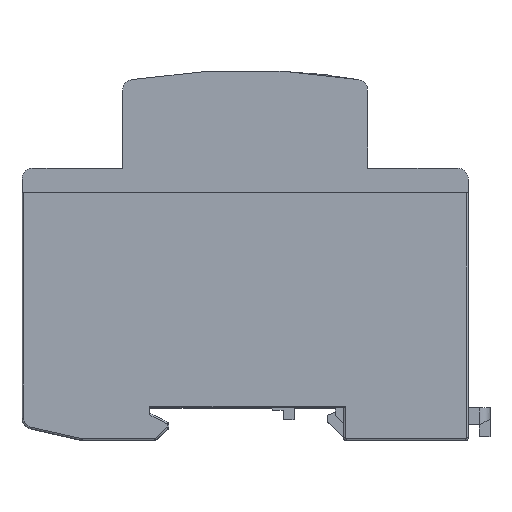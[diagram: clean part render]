
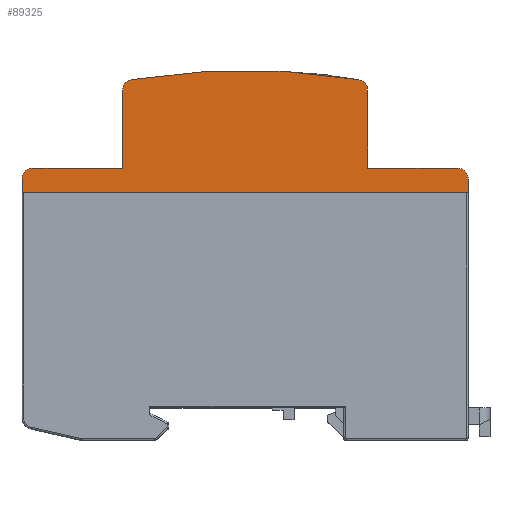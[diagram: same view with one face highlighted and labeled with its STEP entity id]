
A CAD part, top view. The second image highlights one B-rep face of the part: STEP entity #89325.
In plain terms, the highlighted planar face has unit normal (0, 0, 1).
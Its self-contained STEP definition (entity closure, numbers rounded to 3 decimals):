
#1273 = EDGE_CURVE ( 'NONE', #40265, #8136, #71218, .T. ) ;
#2281 = DIRECTION ( 'NONE',  ( 0., 0., -1. ) ) ;
#2338 = LINE ( 'NONE', #38130, #20530 ) ;
#3314 = LINE ( 'NONE', #61264, #30517 ) ;
#6109 = DIRECTION ( 'NONE',  ( 1., 0., 0. ) ) ;
#6634 = FACE_OUTER_BOUND ( 'NONE', #82988, .T. ) ;
#7112 = DIRECTION ( 'NONE',  ( 0., 0., 1. ) ) ;
#8136 = VERTEX_POINT ( 'NONE', #87949 ) ;
#9161 = CIRCLE ( 'NONE', #91932, 2. ) ;
#11566 = EDGE_CURVE ( 'NONE', #46644, #84211, #76021, .T. ) ;
#11831 = DIRECTION ( 'NONE',  ( 0., -1., 0. ) ) ;
#11911 = VERTEX_POINT ( 'NONE', #49611 ) ;
#12720 = EDGE_CURVE ( 'NONE', #74410, #85646, #2338, .T. ) ;
#13127 = DIRECTION ( 'NONE',  ( 0., 0., -1. ) ) ;
#15704 = DIRECTION ( 'NONE',  ( 0., 1., 0. ) ) ;
#16481 = EDGE_CURVE ( 'NONE', #36434, #77162, #92887, .T. ) ;
#17627 = ORIENTED_EDGE ( 'NONE', *, *, #24798, .F. ) ;
#18012 = DIRECTION ( 'NONE',  ( 1., 0., 0. ) ) ;
#18915 = ORIENTED_EDGE ( 'NONE', *, *, #16481, .F. ) ;
#19056 = ORIENTED_EDGE ( 'NONE', *, *, #41431, .F. ) ;
#20530 = VECTOR ( 'NONE', #66896, 1000. ) ;
#21721 = DIRECTION ( 'NONE',  ( 1., 0., 0. ) ) ;
#24138 = ORIENTED_EDGE ( 'NONE', *, *, #70222, .F. ) ;
#24798 = EDGE_CURVE ( 'NONE', #74410, #88228, #50112, .T. ) ;
#26601 = DIRECTION ( 'NONE',  ( 0., 1., 0. ) ) ;
#29663 = AXIS2_PLACEMENT_3D ( 'NONE', #57968, #7112, #21721 ) ;
#30499 = AXIS2_PLACEMENT_3D ( 'NONE', #69280, #76816, #6109 ) ;
#30517 = VECTOR ( 'NONE', #66945, 1000. ) ;
#31906 = CARTESIAN_POINT ( 'NONE',  ( 41., 0., 17.7 ) ) ;
#34021 = DIRECTION ( 'NONE',  ( 1., 0., 0. ) ) ;
#36434 = VERTEX_POINT ( 'NONE', #86016 ) ;
#36972 = CARTESIAN_POINT ( 'NONE',  ( 0., -105.062, 17.7 ) ) ;
#38071 = CARTESIAN_POINT ( 'NONE',  ( -20.5, 18.815, 17.7 ) ) ;
#38130 = CARTESIAN_POINT ( 'NONE',  ( 0., 0., 17.7 ) ) ;
#38832 = ORIENTED_EDGE ( 'NONE', *, *, #47960, .F. ) ;
#38995 = CARTESIAN_POINT ( 'NONE',  ( -39., 4.5, 17.7 ) ) ;
#39581 = CARTESIAN_POINT ( 'NONE',  ( 39., 2.5, 17.7 ) ) ;
#40265 = VERTEX_POINT ( 'NONE', #38995 ) ;
#40942 = CARTESIAN_POINT ( 'NONE',  ( -39., 2.5, 17.7 ) ) ;
#41431 = EDGE_CURVE ( 'NONE', #84211, #36434, #89249, .T. ) ;
#41882 = CARTESIAN_POINT ( 'NONE',  ( -41., 0., 17.7 ) ) ;
#43902 = ORIENTED_EDGE ( 'NONE', *, *, #1273, .F. ) ;
#46216 = DIRECTION ( 'NONE',  ( 0., 0., -1. ) ) ;
#46644 = VERTEX_POINT ( 'NONE', #66516 ) ;
#47960 = EDGE_CURVE ( 'NONE', #77162, #76314, #67489, .T. ) ;
#48470 = DIRECTION ( 'NONE',  ( 1., 0., 0. ) ) ;
#49611 = CARTESIAN_POINT ( 'NONE',  ( 41., 2.5, 17.7 ) ) ;
#50112 = LINE ( 'NONE', #80250, #65078 ) ;
#52682 = VECTOR ( 'NONE', #26601, 1000. ) ;
#54253 = CARTESIAN_POINT ( 'NONE',  ( 0., 4.5, 17.7 ) ) ;
#54609 = ORIENTED_EDGE ( 'NONE', *, *, #74598, .T. ) ;
#56042 = AXIS2_PLACEMENT_3D ( 'NONE', #38071, #2281, #63013 ) ;
#57968 = CARTESIAN_POINT ( 'NONE',  ( -42.64, -0.45, 17.7 ) ) ;
#59091 = DIRECTION ( 'NONE',  ( 1., 0., 0. ) ) ;
#61264 = CARTESIAN_POINT ( 'NONE',  ( -22.5, 11.26, 17.7 ) ) ;
#61441 = VERTEX_POINT ( 'NONE', #76595 ) ;
#62400 = CARTESIAN_POINT ( 'NONE',  ( 41., 1.25, 17.7 ) ) ;
#63013 = DIRECTION ( 'NONE',  ( -1., 0., 0. ) ) ;
#64419 = VECTOR ( 'NONE', #11831, 1000. ) ;
#65078 = VECTOR ( 'NONE', #15704, 1000. ) ;
#65105 = EDGE_CURVE ( 'NONE', #76314, #11911, #76870, .T. ) ;
#65502 = AXIS2_PLACEMENT_3D ( 'NONE', #36972, #80311, #59091 ) ;
#66516 = CARTESIAN_POINT ( 'NONE',  ( -20.827, 20.788, 17.7 ) ) ;
#66896 = DIRECTION ( 'NONE',  ( 1., 0., 0. ) ) ;
#66945 = DIRECTION ( 'NONE',  ( 0., 1., 0. ) ) ;
#67489 = LINE ( 'NONE', #54253, #83708 ) ;
#68769 = EDGE_CURVE ( 'NONE', #8136, #61441, #3314, .T. ) ;
#69280 = CARTESIAN_POINT ( 'NONE',  ( 20.5, 18.815, 17.7 ) ) ;
#70222 = EDGE_CURVE ( 'NONE', #61441, #46644, #83190, .T. ) ;
#71218 = LINE ( 'NONE', #86286, #72903 ) ;
#72867 = CARTESIAN_POINT ( 'NONE',  ( 22.5, 4.5, 17.7 ) ) ;
#72903 = VECTOR ( 'NONE', #34021, 1000. ) ;
#74410 = VERTEX_POINT ( 'NONE', #41882 ) ;
#74598 = EDGE_CURVE ( 'NONE', #85646, #11911, #83154, .T. ) ;
#76021 = CIRCLE ( 'NONE', #65502, 127.562 ) ;
#76314 = VERTEX_POINT ( 'NONE', #78747 ) ;
#76413 = CARTESIAN_POINT ( 'NONE',  ( 22.5, 11.26, 17.7 ) ) ;
#76595 = CARTESIAN_POINT ( 'NONE',  ( -22.5, 18.815, 17.7 ) ) ;
#76816 = DIRECTION ( 'NONE',  ( 0., 0., -1. ) ) ;
#76870 = CIRCLE ( 'NONE', #82872, 2. ) ;
#77162 = VERTEX_POINT ( 'NONE', #72867 ) ;
#78230 = EDGE_CURVE ( 'NONE', #88228, #40265, #9161, .T. ) ;
#78747 = CARTESIAN_POINT ( 'NONE',  ( 39., 4.5, 17.7 ) ) ;
#80250 = CARTESIAN_POINT ( 'NONE',  ( -41., 11.26, 17.7 ) ) ;
#80311 = DIRECTION ( 'NONE',  ( 0., 0., -1. ) ) ;
#81269 = ORIENTED_EDGE ( 'NONE', *, *, #78230, .F. ) ;
#81898 = CARTESIAN_POINT ( 'NONE',  ( -41., 2.5, 17.7 ) ) ;
#82493 = DIRECTION ( 'NONE',  ( -1., 0., 0. ) ) ;
#82872 = AXIS2_PLACEMENT_3D ( 'NONE', #39581, #46216, #82493 ) ;
#82988 = EDGE_LOOP ( 'NONE', ( #88699, #54609, #90869, #38832, #18915, #19056, #85844, #24138, #93212, #43902, #81269, #17627 ) ) ;
#83154 = LINE ( 'NONE', #62400, #52682 ) ;
#83190 = CIRCLE ( 'NONE', #56042, 2. ) ;
#83708 = VECTOR ( 'NONE', #18012, 1000. ) ;
#84211 = VERTEX_POINT ( 'NONE', #93152 ) ;
#84876 = PLANE ( 'NONE',  #29663 ) ;
#85646 = VERTEX_POINT ( 'NONE', #31906 ) ;
#85844 = ORIENTED_EDGE ( 'NONE', *, *, #11566, .F. ) ;
#86016 = CARTESIAN_POINT ( 'NONE',  ( 22.5, 18.815, 17.7 ) ) ;
#86286 = CARTESIAN_POINT ( 'NONE',  ( 0., 4.5, 17.7 ) ) ;
#87949 = CARTESIAN_POINT ( 'NONE',  ( -22.5, 4.5, 17.7 ) ) ;
#88228 = VERTEX_POINT ( 'NONE', #81898 ) ;
#88699 = ORIENTED_EDGE ( 'NONE', *, *, #12720, .T. ) ;
#89249 = CIRCLE ( 'NONE', #30499, 2. ) ;
#89325 = ADVANCED_FACE ( 'NONE', ( #6634 ), #84876, .T. ) ;
#90869 = ORIENTED_EDGE ( 'NONE', *, *, #65105, .F. ) ;
#91932 = AXIS2_PLACEMENT_3D ( 'NONE', #40942, #13127, #48470 ) ;
#92887 = LINE ( 'NONE', #76413, #64419 ) ;
#93152 = CARTESIAN_POINT ( 'NONE',  ( 20.827, 20.788, 17.7 ) ) ;
#93212 = ORIENTED_EDGE ( 'NONE', *, *, #68769, .F. ) ;
